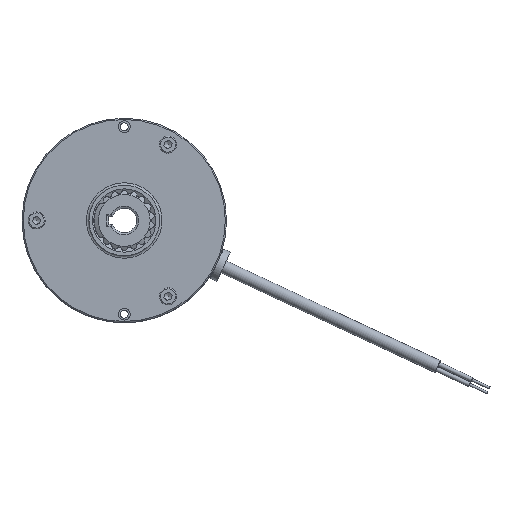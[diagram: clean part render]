
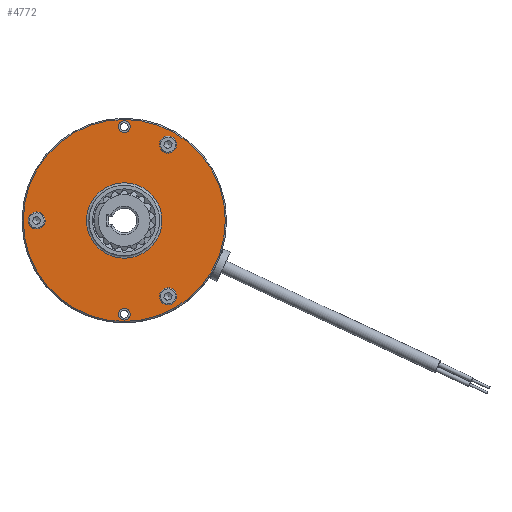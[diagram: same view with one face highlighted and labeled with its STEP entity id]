
A CAD part, left-side view. The second image highlights one B-rep face of the part: STEP entity #4772.
In plain terms, the highlighted planar face has unit normal (-1, 0, 0).
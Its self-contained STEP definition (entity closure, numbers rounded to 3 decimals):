
#353=FACE_BOUND('',#1110,.T.);
#354=FACE_BOUND('',#1111,.T.);
#355=FACE_BOUND('',#1112,.T.);
#356=FACE_BOUND('',#1113,.T.);
#357=FACE_BOUND('',#1114,.T.);
#358=FACE_BOUND('',#1115,.T.);
#480=CIRCLE('',#5081,3.5);
#481=CIRCLE('',#5082,3.5);
#500=CIRCLE('',#5119,3.5);
#501=CIRCLE('',#5120,3.5);
#520=CIRCLE('',#5157,3.5);
#521=CIRCLE('',#5158,3.5);
#544=CIRCLE('',#5199,41.5);
#545=CIRCLE('',#5202,15.5);
#546=CIRCLE('',#5203,2.4);
#547=CIRCLE('',#5204,2.4);
#834=FACE_OUTER_BOUND('',#1109,.T.);
#1109=EDGE_LOOP('',(#3680));
#1110=EDGE_LOOP('',(#3681,#3682));
#1111=EDGE_LOOP('',(#3683,#3684));
#1112=EDGE_LOOP('',(#3685,#3686));
#1113=EDGE_LOOP('',(#3687));
#1114=EDGE_LOOP('',(#3688));
#1115=EDGE_LOOP('',(#3689));
#1940=VERTEX_POINT('',#7527);
#1941=VERTEX_POINT('',#7528);
#1973=VERTEX_POINT('',#7637);
#1974=VERTEX_POINT('',#7638);
#2006=VERTEX_POINT('',#7747);
#2007=VERTEX_POINT('',#7748);
#2035=VERTEX_POINT('',#7908);
#2036=VERTEX_POINT('',#7913);
#2037=VERTEX_POINT('',#7915);
#2038=VERTEX_POINT('',#7917);
#2487=EDGE_CURVE('',#1940,#1941,#480,.T.);
#2488=EDGE_CURVE('',#1941,#1940,#481,.T.);
#2532=EDGE_CURVE('',#1973,#1974,#500,.T.);
#2533=EDGE_CURVE('',#1974,#1973,#501,.T.);
#2577=EDGE_CURVE('',#2006,#2007,#520,.T.);
#2578=EDGE_CURVE('',#2007,#2006,#521,.T.);
#2625=EDGE_CURVE('',#2035,#2035,#544,.T.);
#2626=EDGE_CURVE('',#2036,#2036,#545,.T.);
#2627=EDGE_CURVE('',#2037,#2037,#546,.T.);
#2628=EDGE_CURVE('',#2038,#2038,#547,.T.);
#3680=ORIENTED_EDGE('',*,*,#2625,.F.);
#3681=ORIENTED_EDGE('',*,*,#2487,.T.);
#3682=ORIENTED_EDGE('',*,*,#2488,.T.);
#3683=ORIENTED_EDGE('',*,*,#2532,.T.);
#3684=ORIENTED_EDGE('',*,*,#2533,.T.);
#3685=ORIENTED_EDGE('',*,*,#2577,.T.);
#3686=ORIENTED_EDGE('',*,*,#2578,.T.);
#3687=ORIENTED_EDGE('',*,*,#2626,.T.);
#3688=ORIENTED_EDGE('',*,*,#2627,.T.);
#3689=ORIENTED_EDGE('',*,*,#2628,.T.);
#4357=PLANE('',#5201);
#4772=ADVANCED_FACE('',(#834,#353,#354,#355,#356,#357,#358),#4357,.T.);
#5081=AXIS2_PLACEMENT_3D('',#7529,#5904,#5905);
#5082=AXIS2_PLACEMENT_3D('',#7530,#5906,#5907);
#5119=AXIS2_PLACEMENT_3D('',#7639,#5998,#5999);
#5120=AXIS2_PLACEMENT_3D('',#7640,#6000,#6001);
#5157=AXIS2_PLACEMENT_3D('',#7749,#6092,#6093);
#5158=AXIS2_PLACEMENT_3D('',#7750,#6094,#6095);
#5199=AXIS2_PLACEMENT_3D('',#7910,#6190,#6191);
#5201=AXIS2_PLACEMENT_3D('',#7912,#6194,#6195);
#5202=AXIS2_PLACEMENT_3D('',#7914,#6196,#6197);
#5203=AXIS2_PLACEMENT_3D('',#7916,#6198,#6199);
#5204=AXIS2_PLACEMENT_3D('',#7918,#6200,#6201);
#5904=DIRECTION('center_axis',(1.,0.,0.));
#5905=DIRECTION('ref_axis',(0.,0.952,0.307));
#5906=DIRECTION('center_axis',(1.,0.,0.));
#5907=DIRECTION('ref_axis',(0.,0.952,0.307));
#5998=DIRECTION('center_axis',(1.,0.,0.));
#5999=DIRECTION('ref_axis',(0.,-0.741,0.671));
#6000=DIRECTION('center_axis',(1.,0.,0.));
#6001=DIRECTION('ref_axis',(0.,-0.741,0.671));
#6092=DIRECTION('center_axis',(1.,0.,0.));
#6093=DIRECTION('ref_axis',(0.,-0.21,-0.978));
#6094=DIRECTION('center_axis',(1.,0.,0.));
#6095=DIRECTION('ref_axis',(0.,-0.21,-0.978));
#6190=DIRECTION('center_axis',(1.,0.,0.));
#6191=DIRECTION('ref_axis',(0.,-1.,0.));
#6194=DIRECTION('center_axis',(-1.,0.,0.));
#6195=DIRECTION('ref_axis',(0.,0.,1.));
#6196=DIRECTION('center_axis',(1.,0.,0.));
#6197=DIRECTION('ref_axis',(0.,0.,1.));
#6198=DIRECTION('center_axis',(1.,0.,0.));
#6199=DIRECTION('ref_axis',(0.,0.,
-1.));
#6200=DIRECTION('center_axis',(1.,0.,0.));
#6201=DIRECTION('ref_axis',(0.,0.,
-1.));
#7527=CARTESIAN_POINT('',(-24.6,-14.669,32.25));
#7528=CARTESIAN_POINT('',(-24.6,-21.331,30.104));
#7529=CARTESIAN_POINT('Origin',(-24.6,-18.,31.177));
#7530=CARTESIAN_POINT('Origin',(-24.6,-18.,31.177));
#7637=CARTESIAN_POINT('',(-24.6,-20.595,-28.829));
#7638=CARTESIAN_POINT('',(-24.6,-15.405,-33.525));
#7639=CARTESIAN_POINT('Origin',(-24.6,-18.,-31.177));
#7640=CARTESIAN_POINT('Origin',(-24.6,-18.,-31.177));
#7747=CARTESIAN_POINT('',(-24.6,35.264,-3.422));
#7748=CARTESIAN_POINT('',(-24.6,36.736,3.422));
#7749=CARTESIAN_POINT('Origin',(-24.6,36.,0.));
#7750=CARTESIAN_POINT('Origin',(-24.6,36.,0.));
#7908=CARTESIAN_POINT('',(-24.6,41.5,0.));
#7910=CARTESIAN_POINT('Origin',(-24.6,0.,0.));
#7912=CARTESIAN_POINT('Origin',(-24.6,21.,0.));
#7913=CARTESIAN_POINT('',(-24.6,0.,-15.5));
#7914=CARTESIAN_POINT('Origin',(-24.6,0.,0.));
#7915=CARTESIAN_POINT('',(-24.6,0.,-36.1));
#7916=CARTESIAN_POINT('Origin',(-24.6,0.,-38.5));
#7917=CARTESIAN_POINT('',(-24.6,0.,40.9));
#7918=CARTESIAN_POINT('Origin',(-24.6,0.,38.5));
